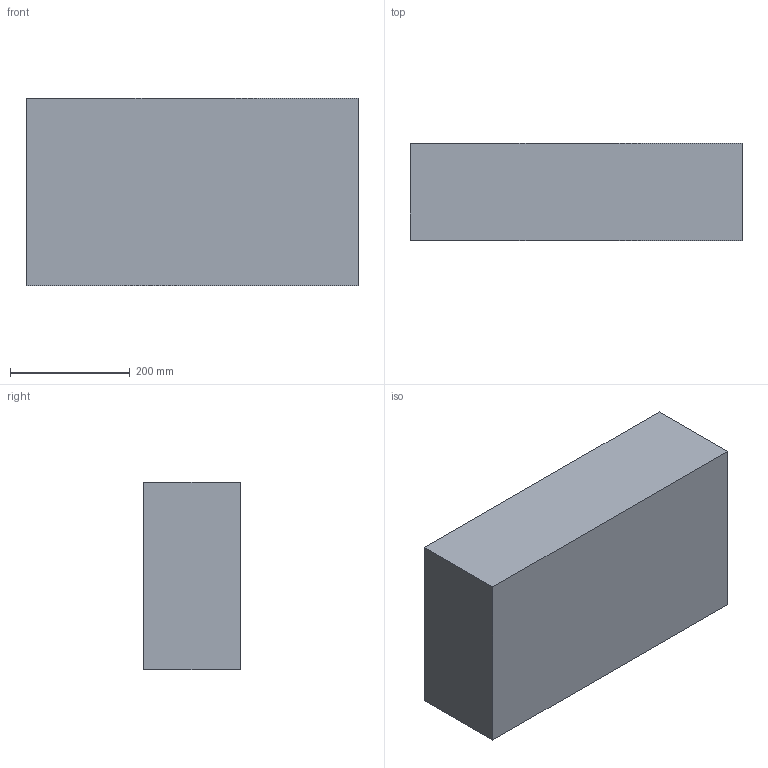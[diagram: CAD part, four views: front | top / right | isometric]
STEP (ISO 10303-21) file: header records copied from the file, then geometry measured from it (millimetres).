
FILE_DESCRIPTION (( 'STEP AP214' ), '1' );
FILE_NAME ('V525 PP BOTTOM TUB 10-2-2023.STEP', '2023-10-03T23:02:59', ( '' ), ( '' ), 'SwSTEP 2.0', 'SolidWorks 2021', '' );
FILE_SCHEMA (( 'AUTOMOTIVE_DESIGN' ));
Length unit declared in the file: millimetre
Products named in the file (1): V525 PP BOTTOM TUB 10-2-2023
Bounding box: 554.98 x 161.72 x 313.43 mm (x, y, z)
Volume: 6453125.5 mm3; surface area: 844760.2 mm2
Topology: 1 solids, 1 shells, 143 faces, 340 edges, 193 vertices
Faces by surface type: bspline 112, plane 31
Entity records: 7435 total; most frequent: CARTESIAN_POINT 5159, ORIENTED_EDGE 664, EDGE_CURVE 332, DIRECTION 194, VERTEX_POINT 193, EDGE_LOOP 145, ADVANCED_FACE 143, FACE_OUTER_BOUND 143
